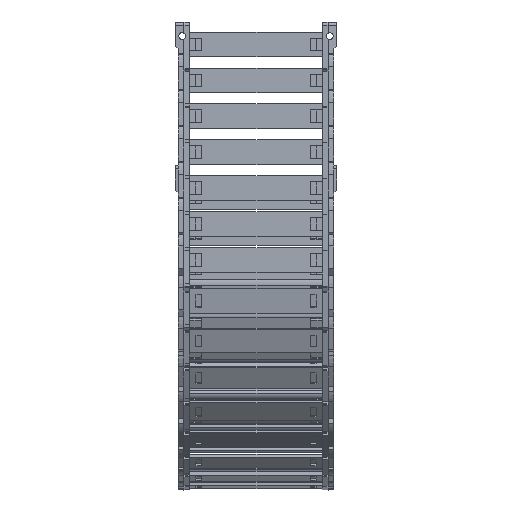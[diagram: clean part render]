
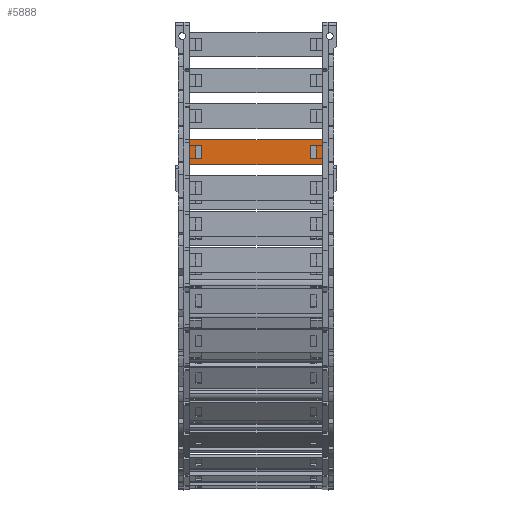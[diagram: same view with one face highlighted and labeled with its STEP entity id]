
A CAD part, left-side view. The second image highlights one B-rep face of the part: STEP entity #5888.
In plain terms, the highlighted planar face has unit normal (-1, 0, 0) as drawn and (0, 1, 0) by its records, which use the part's own axes.
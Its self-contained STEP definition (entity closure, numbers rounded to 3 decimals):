
#5198=DIRECTION('',(0.,0.,-1.));
#5199=VECTOR('',#5198,8.15);
#5200=CARTESIAN_POINT('',(62.522,1.5,4.075));
#5201=LINE('',#5200,#5199);
#5360=DIRECTION('',(0.,0.,1.));
#5361=VECTOR('',#5360,15.8);
#5362=CARTESIAN_POINT('',(70.14,1.5,-7.9));
#5363=LINE('',#5362,#5361);
#5367=DIRECTION('',(-1.,0.,0.));
#5368=VECTOR('',#5367,84.9);
#5369=CARTESIAN_POINT('',(70.14,1.5,7.9));
#5370=LINE('',#5369,#5368);
#5374=DIRECTION('',(0.,0.,-1.));
#5375=VECTOR('',#5374,15.8);
#5376=CARTESIAN_POINT('',(-14.76,1.5,7.9));
#5377=LINE('',#5376,#5375);
#5381=DIRECTION('',(1.,0.,0.));
#5382=VECTOR('',#5381,3.648);
#5383=CARTESIAN_POINT('',(62.522,1.5,4.075));
#5384=LINE('',#5383,#5382);
#5388=DIRECTION('',(0.,0.,-1.));
#5389=VECTOR('',#5388,8.15);
#5390=CARTESIAN_POINT('',(66.17,1.5,4.075));
#5391=LINE('',#5390,#5389);
#5395=DIRECTION('',(-1.,0.,0.));
#5396=VECTOR('',#5395,3.648);
#5397=CARTESIAN_POINT('',(66.17,1.5,-4.075));
#5398=LINE('',#5397,#5396);
#5402=DIRECTION('',(0.,0.,-1.));
#5403=VECTOR('',#5402,8.15);
#5404=CARTESIAN_POINT('',(-7.142,1.5,4.075));
#5405=LINE('',#5404,#5403);
#5409=DIRECTION('',(-1.,0.,0.));
#5410=VECTOR('',#5409,3.648);
#5411=CARTESIAN_POINT('',(-7.142,1.5,-4.075));
#5412=LINE('',#5411,#5410);
#5416=DIRECTION('',(0.,0.,1.));
#5417=VECTOR('',#5416,8.15);
#5418=CARTESIAN_POINT('',(-10.79,1.5,-4.075));
#5419=LINE('',#5418,#5417);
#5423=DIRECTION('',(1.,0.,0.));
#5424=VECTOR('',#5423,3.648);
#5425=CARTESIAN_POINT('',(-10.79,1.5,4.075));
#5426=LINE('',#5425,#5424);
#5437=DIRECTION('',(-1.,0.,0.));
#5438=VECTOR('',#5437,84.9);
#5439=CARTESIAN_POINT('',(70.14,1.5,-7.9));
#5440=LINE('',#5439,#5438);
#5557=CARTESIAN_POINT('',(62.522,1.5,4.075));
#5559=VERTEX_POINT('',#5557);
#5567=CARTESIAN_POINT('',(66.17,1.5,4.075));
#5568=VERTEX_POINT('',#5567);
#5570=CARTESIAN_POINT('',(62.522,1.5,-4.075));
#5572=VERTEX_POINT('',#5570);
#5575=CARTESIAN_POINT('',(66.17,1.5,-4.075));
#5576=VERTEX_POINT('',#5575);
#5596=CARTESIAN_POINT('',(70.14,1.5,7.9));
#5598=VERTEX_POINT('',#5596);
#5600=CARTESIAN_POINT('',(70.14,1.5,-7.9));
#5601=VERTEX_POINT('',#5600);
#5604=CARTESIAN_POINT('',(-14.76,1.5,7.9));
#5606=VERTEX_POINT('',#5604);
#5608=CARTESIAN_POINT('',(-14.76,1.5,-7.9));
#5609=VERTEX_POINT('',#5608);
#5616=CARTESIAN_POINT('',(-7.142,1.5,4.075));
#5617=CARTESIAN_POINT('',(-7.142,1.5,-4.075));
#5618=VERTEX_POINT('',#5616);
#5619=VERTEX_POINT('',#5617);
#5620=CARTESIAN_POINT('',(-10.79,1.5,-4.075));
#5621=VERTEX_POINT('',#5620);
#5622=CARTESIAN_POINT('',(-10.79,1.5,4.075));
#5623=VERTEX_POINT('',#5622);
#5859=CARTESIAN_POINT('',(101.88,1.5,10.061));
#5860=DIRECTION('',(0.,-1.,0.));
#5861=DIRECTION('',(0.,0.,-1.));
#5862=AXIS2_PLACEMENT_3D('',#5859,#5860,#5861);
#5863=PLANE('',#5862);
#5864=ORIENTED_EDGE('',*,*,#5766,.T.);
#5865=ORIENTED_EDGE('',*,*,#5802,.T.);
#5866=ORIENTED_EDGE('',*,*,#5827,.T.);
#5868=ORIENTED_EDGE('',*,*,#5867,.F.);
#5869=EDGE_LOOP('',(#5864,#5865,#5866,#5868));
#5870=FACE_OUTER_BOUND('',#5869,.F.);
#5871=ORIENTED_EDGE('',*,*,#5670,.F.);
#5872=ORIENTED_EDGE('',*,*,#5643,.T.);
#5874=ORIENTED_EDGE('',*,*,#5873,.T.);
#5875=ORIENTED_EDGE('',*,*,#5695,.T.);
#5876=EDGE_LOOP('',(#5871,#5872,#5874,#5875));
#5877=FACE_BOUND('',#5876,.F.);
#5879=ORIENTED_EDGE('',*,*,#5878,.T.);
#5881=ORIENTED_EDGE('',*,*,#5880,.T.);
#5883=ORIENTED_EDGE('',*,*,#5882,.T.);
#5885=ORIENTED_EDGE('',*,*,#5884,.T.);
#5886=EDGE_LOOP('',(#5879,#5881,#5883,#5885));
#5887=FACE_BOUND('',#5886,.F.);
#5888=ADVANCED_FACE('',(#5870,#5877,#5887),#5863,.F.);
#5643=EDGE_CURVE('',#5559,#5568,#5384,.T.);
#5670=EDGE_CURVE('',#5559,#5572,#5201,.T.);
#5695=EDGE_CURVE('',#5576,#5572,#5398,.T.);
#5766=EDGE_CURVE('',#5601,#5598,#5363,.T.);
#5802=EDGE_CURVE('',#5598,#5606,#5370,.T.);
#5827=EDGE_CURVE('',#5606,#5609,#5377,.T.);
#5867=EDGE_CURVE('',#5601,#5609,#5440,.T.);
#5873=EDGE_CURVE('',#5568,#5576,#5391,.T.);
#5878=EDGE_CURVE('',#5618,#5619,#5405,.T.);
#5880=EDGE_CURVE('',#5619,#5621,#5412,.T.);
#5882=EDGE_CURVE('',#5621,#5623,#5419,.T.);
#5884=EDGE_CURVE('',#5623,#5618,#5426,.T.);
